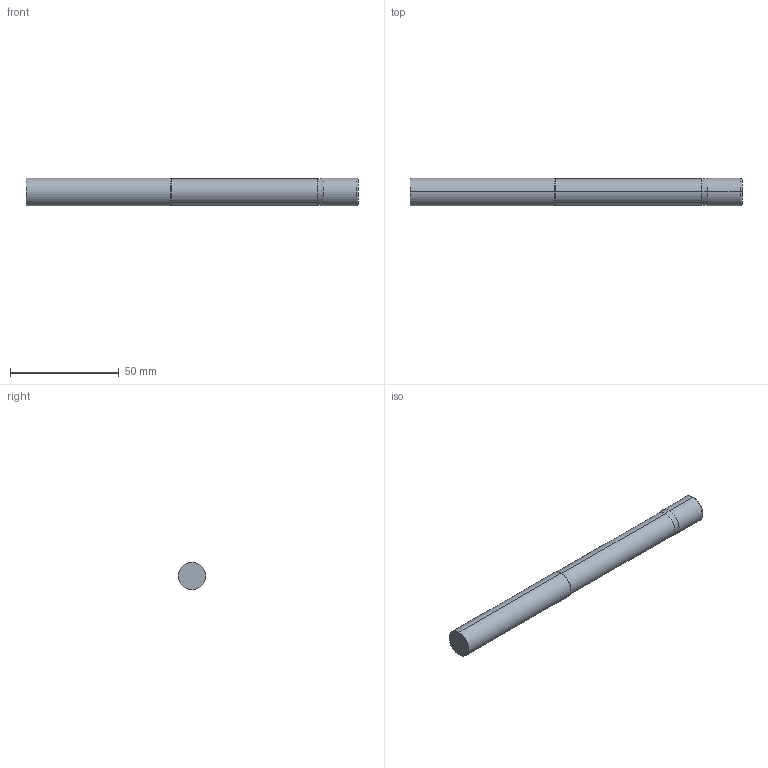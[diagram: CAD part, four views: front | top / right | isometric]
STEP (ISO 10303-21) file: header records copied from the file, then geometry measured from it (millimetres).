
FILE_DESCRIPTION (( 'STEP AP214' ), '1' );
FILE_NAME ('SSIRNL50500-030.STEP', '2025-05-28T13:17:06', ( '' ), ( '' ), 'SwSTEP 2.0', 'SolidWorks 2023', '' );
FILE_SCHEMA (( 'AUTOMOTIVE_DESIGN' ));
Length unit declared in the file: inch
Products named in the file (3): SSI5 Imperial SHANK ONLY_SSIRNL50500-030; SSIRNL50500-030; SSI5 Imperial LOC ONLY_SSIRNL50500-030
Assembly tree (2 placements, depth 2):
  SSIRNL50500-030
    SSI5 Imperial LOC ONLY_SSIRNL50500-030
    SSI5 Imperial SHANK ONLY_SSIRNL50500-030
Bounding box: 152.4 x 12.7 x 12.7 mm (x, y, z)
Volume: 18450.4 mm3; surface area: 6440.6 mm2
Topology: 2 solids, 2 shells, 16 faces, 28 edges, 16 vertices
Faces by surface type: cylinder 6, plane 4, cone 4, torus 2
Entity records: 562 total; most frequent: DIRECTION 88, CARTESIAN_POINT 65, ORIENTED_EDGE 56, AXIS2_PLACEMENT_3D 39, EDGE_CURVE 28, CIRCLE 18, ADVANCED_FACE 16, FACE_OUTER_BOUND 16
